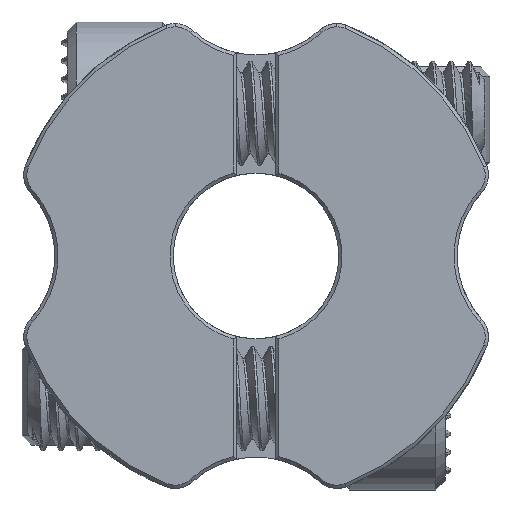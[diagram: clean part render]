
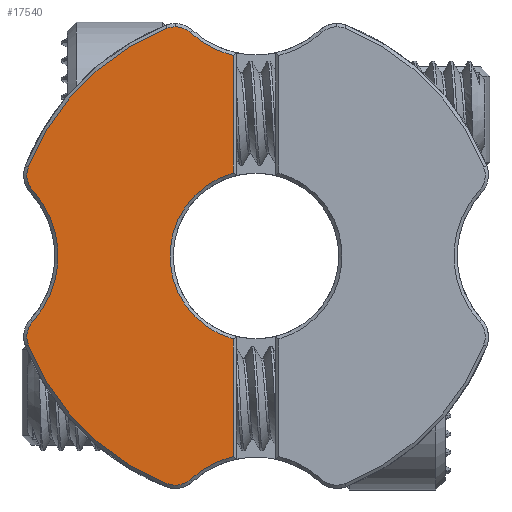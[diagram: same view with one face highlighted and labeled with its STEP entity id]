
A CAD part, front view. The second image highlights one B-rep face of the part: STEP entity #17540.
In plain terms, the highlighted planar face has unit normal (0, -1, 0).
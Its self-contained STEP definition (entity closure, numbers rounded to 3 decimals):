
#346 = ORIENTED_EDGE ( 'NONE', *, *, #41149, .T. ) ;
#380 = CIRCLE ( 'NONE', #34992, 3.725 ) ;
#398 = DIRECTION ( 'NONE',  ( 0., 0., 1. ) ) ;
#1901 = ORIENTED_EDGE ( 'NONE', *, *, #8480, .T. ) ;
#2267 = CARTESIAN_POINT ( 'NONE',  ( -0.875, -10.5, -3.182 ) ) ;
#2858 = DIRECTION ( 'NONE',  ( 0., 0., 1. ) ) ;
#3769 = EDGE_CURVE ( 'NONE', #8254, #13115, #55056, .T. ) ;
#4386 = CIRCLE ( 'NONE', #32494, 0.875 ) ;
#5100 = CARTESIAN_POINT ( 'NONE',  ( -3.1, -10.5, 7.915 ) ) ;
#7048 = DIRECTION ( 'NONE',  ( 0., 1., 0. ) ) ;
#7248 = AXIS2_PLACEMENT_3D ( 'NONE', #34790, #8553, #9117 ) ;
#7305 = CARTESIAN_POINT ( 'NONE',  ( -3.419, -10.5, -8.729 ) ) ;
#7508 = CARTESIAN_POINT ( 'NONE',  ( -8.729, -10.5, -3.419 ) ) ;
#8254 = VERTEX_POINT ( 'NONE', #2267 ) ;
#8480 = EDGE_CURVE ( 'NONE', #27473, #53060, #4386, .T. ) ;
#8553 = DIRECTION ( 'NONE',  ( 0., 1., 0. ) ) ;
#9117 = DIRECTION ( 'NONE',  ( 0., 0., 1. ) ) ;
#9602 = CARTESIAN_POINT ( 'NONE',  ( -0.875, -10.5, 0. ) ) ;
#9899 = AXIS2_PLACEMENT_3D ( 'NONE', #39932, #44172, #23327 ) ;
#10755 = CIRCLE ( 'NONE', #9899, 3.725 ) ;
#11589 = VECTOR ( 'NONE', #13881, 1000. ) ;
#11917 = EDGE_CURVE ( 'NONE', #13115, #48258, #26873, .T. ) ;
#12424 = DIRECTION ( 'NONE',  ( 0., 1., 0. ) ) ;
#12601 = PLANE ( 'NONE',  #42269 ) ;
#13115 = VERTEX_POINT ( 'NONE', #32081 ) ;
#13382 = CARTESIAN_POINT ( 'NONE',  ( 0., -10.5, 0. ) ) ;
#13484 = ORIENTED_EDGE ( 'NONE', *, *, #13957, .T. ) ;
#13825 = DIRECTION ( 'NONE',  ( 0., -1., 0. ) ) ;
#13881 = DIRECTION ( 'NONE',  ( 0., 0., 1. ) ) ;
#13957 = EDGE_CURVE ( 'NONE', #22852, #20002, #54156, .T. ) ;
#14012 = DIRECTION ( 'NONE',  ( 0., 0., 1. ) ) ;
#14271 = CIRCLE ( 'NONE', #34329, 0.875 ) ;
#14279 = LINE ( 'NONE', #32042, #31531 ) ;
#16127 = DIRECTION ( 'NONE',  ( 0., 0., 1. ) ) ;
#16205 = AXIS2_PLACEMENT_3D ( 'NONE', #5100, #51941, #43569 ) ;
#17540 = ADVANCED_FACE ( 'NONE', ( #20763 ), #12601, .F. ) ;
#17905 = CARTESIAN_POINT ( 'NONE',  ( -0.875, -10.5, -7.693 ) ) ;
#17925 = VERTEX_POINT ( 'NONE', #26122 ) ;
#18607 = DIRECTION ( 'NONE',  ( 0., -1., 0. ) ) ;
#18854 = EDGE_LOOP ( 'NONE', ( #27684, #22512, #346, #13484, #42180, #52462, #43370, #27607, #39330, #34536, #1901, #52746, #30524 ) ) ;
#18976 = CARTESIAN_POINT ( 'NONE',  ( 0., -10.5, 0. ) ) ;
#20002 = VERTEX_POINT ( 'NONE', #38129 ) ;
#20382 = AXIS2_PLACEMENT_3D ( 'NONE', #44802, #27855, #53004 ) ;
#20402 = DIRECTION ( 'NONE',  ( 0., -1., 0. ) ) ;
#20763 = FACE_OUTER_BOUND ( 'NONE', #18854, .T. ) ;
#21073 = CIRCLE ( 'NONE', #29886, 9.375 ) ;
#22304 = DIRECTION ( 'NONE',  ( 0., 0., 1. ) ) ;
#22341 = DIRECTION ( 'NONE',  ( 0., 0., 1. ) ) ;
#22404 = CARTESIAN_POINT ( 'NONE',  ( -8.729, -10.5, 3.419 ) ) ;
#22512 = ORIENTED_EDGE ( 'NONE', *, *, #11917, .T. ) ;
#22740 = VERTEX_POINT ( 'NONE', #17905 ) ;
#22779 = CIRCLE ( 'NONE', #7248, 3.725 ) ;
#22798 = EDGE_CURVE ( 'NONE', #27191, #38835, #14271, .T. ) ;
#22852 = VERTEX_POINT ( 'NONE', #35203 ) ;
#23042 = EDGE_CURVE ( 'NONE', #42607, #26291, #42187, .T. ) ;
#23327 = DIRECTION ( 'NONE',  ( 0., 0., 1. ) ) ;
#25159 = EDGE_CURVE ( 'NONE', #20002, #17925, #46098, .T. ) ;
#25632 = DIRECTION ( 'NONE',  ( 0., -1., 0. ) ) ;
#26122 = CARTESIAN_POINT ( 'NONE',  ( -3.419, -10.5, 8.729 ) ) ;
#26291 = VERTEX_POINT ( 'NONE', #7508 ) ;
#26873 = LINE ( 'NONE', #9602, #11589 ) ;
#27191 = VERTEX_POINT ( 'NONE', #22404 ) ;
#27473 = VERTEX_POINT ( 'NONE', #7305 ) ;
#27607 = ORIENTED_EDGE ( 'NONE', *, *, #53188, .T. ) ;
#27684 = ORIENTED_EDGE ( 'NONE', *, *, #3769, .T. ) ;
#27855 = DIRECTION ( 'NONE',  ( 0., -1., 0. ) ) ;
#28475 = AXIS2_PLACEMENT_3D ( 'NONE', #18976, #7048, #28591 ) ;
#28591 = DIRECTION ( 'NONE',  ( 0., 0., 1. ) ) ;
#29107 = CARTESIAN_POINT ( 'NONE',  ( -0.875, -10.5, 7.693 ) ) ;
#29886 = AXIS2_PLACEMENT_3D ( 'NONE', #13382, #43458, #398 ) ;
#30524 = ORIENTED_EDGE ( 'NONE', *, *, #42861, .T. ) ;
#30900 = CARTESIAN_POINT ( 'NONE',  ( 0., -10.5, 11.314 ) ) ;
#31082 = CARTESIAN_POINT ( 'NONE',  ( -7.915, -10.5, 3.1 ) ) ;
#31531 = VECTOR ( 'NONE', #2858, 1000. ) ;
#32042 = CARTESIAN_POINT ( 'NONE',  ( -0.875, -10.5, 0. ) ) ;
#32081 = CARTESIAN_POINT ( 'NONE',  ( -0.875, -10.5, 3.182 ) ) ;
#32494 = AXIS2_PLACEMENT_3D ( 'NONE', #49454, #20402, #16127 ) ;
#32589 = CARTESIAN_POINT ( 'NONE',  ( -8.561, -10.5, -2.51 ) ) ;
#32864 = CIRCLE ( 'NONE', #20382, 9.375 ) ;
#34329 = AXIS2_PLACEMENT_3D ( 'NONE', #31082, #13825, #22341 ) ;
#34536 = ORIENTED_EDGE ( 'NONE', *, *, #42277, .T. ) ;
#34790 = CARTESIAN_POINT ( 'NONE',  ( 0., -10.5, -11.314 ) ) ;
#34992 = AXIS2_PLACEMENT_3D ( 'NONE', #30900, #47279, #14012 ) ;
#35203 = CARTESIAN_POINT ( 'NONE',  ( -2.51, -10.5, 8.561 ) ) ;
#35347 = CARTESIAN_POINT ( 'NONE',  ( -3.1, -10.5, 7.915 ) ) ;
#36600 = EDGE_CURVE ( 'NONE', #17925, #27191, #21073, .T. ) ;
#38129 = CARTESIAN_POINT ( 'NONE',  ( -3.1, -10.5, 8.79 ) ) ;
#38835 = VERTEX_POINT ( 'NONE', #41433 ) ;
#39330 = ORIENTED_EDGE ( 'NONE', *, *, #23042, .T. ) ;
#39696 = AXIS2_PLACEMENT_3D ( 'NONE', #35347, #18607, #22304 ) ;
#39932 = CARTESIAN_POINT ( 'NONE',  ( -11.314, -10.5, 0. ) ) ;
#40739 = AXIS2_PLACEMENT_3D ( 'NONE', #47045, #25632, #51490 ) ;
#41149 = EDGE_CURVE ( 'NONE', #48258, #22852, #380, .T. ) ;
#41433 = CARTESIAN_POINT ( 'NONE',  ( -8.561, -10.5, 2.51 ) ) ;
#42180 = ORIENTED_EDGE ( 'NONE', *, *, #25159, .T. ) ;
#42187 = CIRCLE ( 'NONE', #40739, 0.875 ) ;
#42269 = AXIS2_PLACEMENT_3D ( 'NONE', #54976, #12424, #54798 ) ;
#42277 = EDGE_CURVE ( 'NONE', #26291, #27473, #32864, .T. ) ;
#42607 = VERTEX_POINT ( 'NONE', #32589 ) ;
#42861 = EDGE_CURVE ( 'NONE', #22740, #8254, #14279, .T. ) ;
#43370 = ORIENTED_EDGE ( 'NONE', *, *, #22798, .T. ) ;
#43458 = DIRECTION ( 'NONE',  ( 0., -1., 0. ) ) ;
#43569 = DIRECTION ( 'NONE',  ( 0., 0., 1. ) ) ;
#43817 = CARTESIAN_POINT ( 'NONE',  ( -2.51, -10.5, -8.561 ) ) ;
#44172 = DIRECTION ( 'NONE',  ( 0., 1., 0. ) ) ;
#44802 = CARTESIAN_POINT ( 'NONE',  ( 0., -10.5, 0. ) ) ;
#46098 = CIRCLE ( 'NONE', #39696, 0.875 ) ;
#47045 = CARTESIAN_POINT ( 'NONE',  ( -7.915, -10.5, -3.1 ) ) ;
#47086 = EDGE_CURVE ( 'NONE', #53060, #22740, #22779, .T. ) ;
#47279 = DIRECTION ( 'NONE',  ( 0., 1., 0. ) ) ;
#48258 = VERTEX_POINT ( 'NONE', #29107 ) ;
#49454 = CARTESIAN_POINT ( 'NONE',  ( -3.1, -10.5, -7.915 ) ) ;
#51490 = DIRECTION ( 'NONE',  ( 0., 0., 1. ) ) ;
#51941 = DIRECTION ( 'NONE',  ( 0., -1., 0. ) ) ;
#52462 = ORIENTED_EDGE ( 'NONE', *, *, #36600, .T. ) ;
#52746 = ORIENTED_EDGE ( 'NONE', *, *, #47086, .T. ) ;
#53004 = DIRECTION ( 'NONE',  ( 0., 0., 1. ) ) ;
#53060 = VERTEX_POINT ( 'NONE', #43817 ) ;
#53188 = EDGE_CURVE ( 'NONE', #38835, #42607, #10755, .T. ) ;
#54156 = CIRCLE ( 'NONE', #16205, 0.875 ) ;
#54798 = DIRECTION ( 'NONE',  ( 0., 0., 1. ) ) ;
#54976 = CARTESIAN_POINT ( 'NONE',  ( 0., -10.5, 0. ) ) ;
#55056 = CIRCLE ( 'NONE', #28475, 3.3 ) ;
